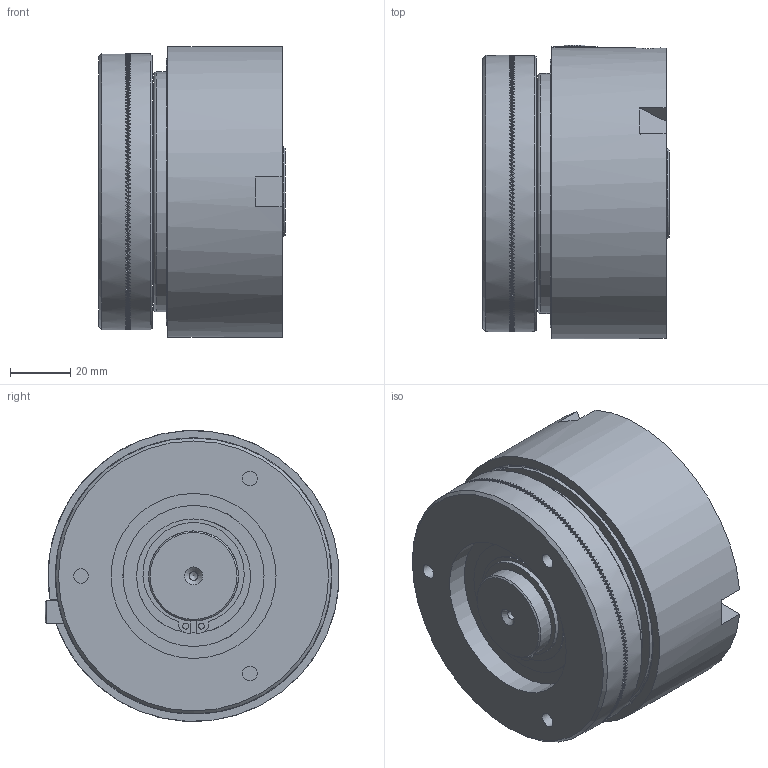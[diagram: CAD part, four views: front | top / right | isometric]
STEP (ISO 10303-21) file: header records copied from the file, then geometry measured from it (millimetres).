
FILE_DESCRIPTION(/* description */ (''),/* implementation_level */ '2;1');
FILE_NAME(/* name */ 'X:\INVENTOR\DISEGNI\03_Friz_Oleod_Pneum_Cil_Stat\03_25 DP\03_25_00_01 DP-00\03_25_00_01 DP00-2017@STEP.stp',/* time_stamp */ '2017-09-11T11:58:57+02:00',/* author */ ('stefano'),/* organization */ (''),/* preprocessor_version */ 'ST-DEVELOPER v16.1',/* originating_system */ 'Autodesk Inventor 2016',/* authorisation */ '');
FILE_SCHEMA (('CONFIG_CONTROL_DESIGN'));
Products named in the file (1): 03_25_00_01 DP00_Substitute_1
Bounding box: 62 x 97.97 x 96.91 mm (x, y, z)
Volume: 324009.3 mm3; surface area: 109061.3 mm2
Topology: 2 solids, 2 shells, 2284 faces, 6925 edges, 4581 vertices
Faces by surface type: plane 1859, cylinder 241, torus 144, sphere 20, cone 20
Full cylindrical faces by diameter (mm): 2 x4, 3 x2, 4.917 x3, 5 x1, 5.25 x3, 7 x1, 8.566 x1, 28.6 x2, 29.5 x1, 30 x5, 38 x3, 47 x3, 48 x1, 50 x1, 55 x4, 58 x1, 59.6 x2, 65 x2, 68 x1, 70 x1, 70.4 x2, 80 x1, 82 x1, 84 x2, 85 x2, 92 x2, 97 x1
Entity records: 84900 total; most frequent: CARTESIAN_POINT 17689, DIRECTION 15277, ORIENTED_EDGE 13498, EDGE_CURVE 6745, AXIS2_PLACEMENT_3D 6600, VERTEX_POINT 4509, ELLIPSE 2643, EDGE_LOOP 2434
